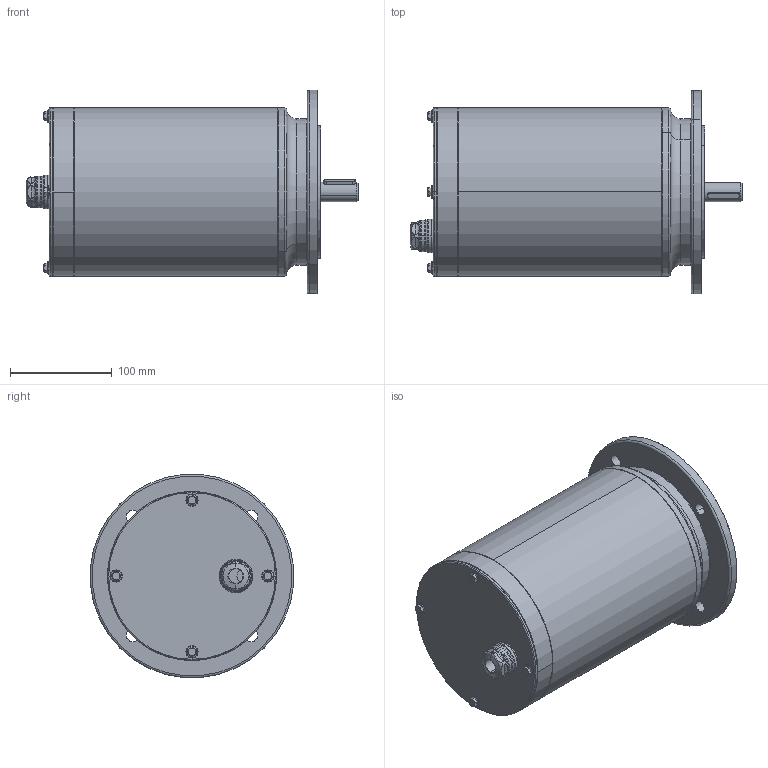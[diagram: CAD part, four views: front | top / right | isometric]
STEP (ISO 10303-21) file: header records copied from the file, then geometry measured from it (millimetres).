
FILE_DESCRIPTION(('STEP AP203'),'1');
FILE_NAME('80B4 B5.stp','2016-11-02T02:53:35',(' '),(' '),'Spatial InterOp 3D',' ',' ');
FILE_SCHEMA(('CONFIG_CONTROL_DESIGN'));
Length unit declared in the file: millimetre
Products named in the file (7): 80B4 B5; NAUO1
Assembly tree (6 placements, depth 2):
  80B4 B5
    NAUO1
    NAUO1
    NAUO1
    NAUO1
    NAUO1
    NAUO1
Bounding box: 325.6 x 199.24 x 199.24 mm (x, y, z)
Volume: 5033530.7 mm3; surface area: 319359.2 mm2
Topology: 6 solids, 50 shells, 754 faces, 1754 edges, 1060 vertices
Faces by surface type: cone 261, cylinder 256, plane 110, torus 108, bspline 11, sphere 8
Entity records: 25337 total; most frequent: CARTESIAN_POINT 7482, DIRECTION 3971, ORIENTED_EDGE 3488, EDGE_CURVE 1744, AXIS2_PLACEMENT_3D 1698, VERTEX_POINT 1060, CIRCLE 948, EDGE_LOOP 828
